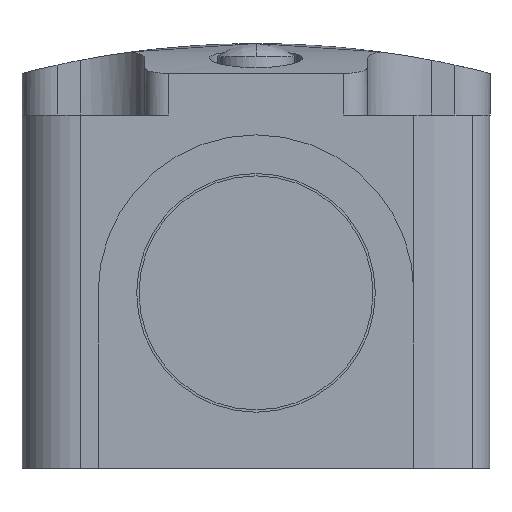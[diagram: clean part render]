
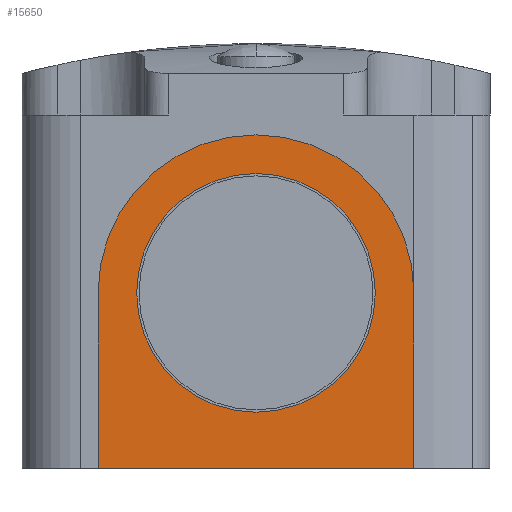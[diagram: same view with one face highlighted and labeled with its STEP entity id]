
A CAD part, front view. The second image highlights one B-rep face of the part: STEP entity #15650.
In plain terms, the highlighted planar face has unit normal (0, -1, 0).
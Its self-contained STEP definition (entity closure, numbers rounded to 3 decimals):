
#48 = CIRCLE ( 'NONE', #9316, 13.5 ) ;
#1264 = DIRECTION ( 'NONE',  ( 1., 0., 0. ) ) ;
#1295 = AXIS2_PLACEMENT_3D ( 'NONE', #8481, #18974, #10018 ) ;
#1306 = CARTESIAN_POINT ( 'NONE',  ( -13.5, -36.2, -21.3 ) ) ;
#1381 = EDGE_LOOP ( 'NONE', ( #9647, #13144 ) ) ;
#2154 = CARTESIAN_POINT ( 'NONE',  ( -13.5, -36.2, 15. ) ) ;
#3127 = VERTEX_POINT ( 'NONE', #8645 ) ;
#3336 = CARTESIAN_POINT ( 'NONE',  ( 0., -36.2, 0. ) ) ;
#3443 = VERTEX_POINT ( 'NONE', #14486 ) ;
#3886 = LINE ( 'NONE', #11008, #15392 ) ;
#4069 = ORIENTED_EDGE ( 'NONE', *, *, #8572, .F. ) ;
#4555 = DIRECTION ( 'NONE',  ( 0., -1., 0. ) ) ;
#4848 = DIRECTION ( 'NONE',  ( 0., 0., -1. ) ) ;
#5091 = DIRECTION ( 'NONE',  ( 0., 1., 0. ) ) ;
#6242 = VERTEX_POINT ( 'NONE', #7370 ) ;
#6459 = VERTEX_POINT ( 'NONE', #2154 ) ;
#6484 = CARTESIAN_POINT ( 'NONE',  ( 13.5, -36.2, 15. ) ) ;
#7370 = CARTESIAN_POINT ( 'NONE',  ( -13.5, -36.2, 0. ) ) ;
#7441 = VECTOR ( 'NONE', #1264, 1000. ) ;
#7560 = VERTEX_POINT ( 'NONE', #12855 ) ;
#7749 = EDGE_CURVE ( 'NONE', #6242, #6459, #12338, .T. ) ;
#7770 = DIRECTION ( 'NONE',  ( 0., 0., -1. ) ) ;
#7915 = LINE ( 'NONE', #19209, #7441 ) ;
#7923 = AXIS2_PLACEMENT_3D ( 'NONE', #14071, #5091, #15595 ) ;
#8481 = CARTESIAN_POINT ( 'NONE',  ( 0., -36.2, 0. ) ) ;
#8572 = EDGE_CURVE ( 'NONE', #6459, #16799, #7915, .T. ) ;
#8645 = CARTESIAN_POINT ( 'NONE',  ( 0., -36.2, -13.5 ) ) ;
#9094 = CIRCLE ( 'NONE', #1295, 10.2 ) ;
#9316 = AXIS2_PLACEMENT_3D ( 'NONE', #3336, #13826, #4848 ) ;
#9647 = ORIENTED_EDGE ( 'NONE', *, *, #10979, .F. ) ;
#10018 = DIRECTION ( 'NONE',  ( 0., 0., -1. ) ) ;
#10167 = EDGE_CURVE ( 'NONE', #7560, #16799, #3886, .T. ) ;
#10203 = EDGE_CURVE ( 'NONE', #3127, #6242, #14902, .T. ) ;
#10293 = DIRECTION ( 'NONE',  ( 0., 0., 1. ) ) ;
#10698 = ORIENTED_EDGE ( 'NONE', *, *, #12846, .F. ) ;
#10979 = EDGE_CURVE ( 'NONE', #3443, #12720, #15371, .T. ) ;
#11008 = CARTESIAN_POINT ( 'NONE',  ( 13.5, -36.2, -21.3 ) ) ;
#11127 = ORIENTED_EDGE ( 'NONE', *, *, #7749, .F. ) ;
#11248 = AXIS2_PLACEMENT_3D ( 'NONE', #15256, #16633, #7770 ) ;
#12338 = LINE ( 'NONE', #1306, #15397 ) ;
#12720 = VERTEX_POINT ( 'NONE', #13230 ) ;
#12846 = EDGE_CURVE ( 'NONE', #7560, #3127, #48, .T. ) ;
#12855 = CARTESIAN_POINT ( 'NONE',  ( 13.5, -36.2, 0. ) ) ;
#12985 = ORIENTED_EDGE ( 'NONE', *, *, #10167, .T. ) ;
#13029 = EDGE_LOOP ( 'NONE', ( #10698, #12985, #4069, #11127, #17656 ) ) ;
#13144 = ORIENTED_EDGE ( 'NONE', *, *, #14244, .F. ) ;
#13165 = AXIS2_PLACEMENT_3D ( 'NONE', #13552, #4555, #15052 ) ;
#13230 = CARTESIAN_POINT ( 'NONE',  ( 0., -36.2, 10.2 ) ) ;
#13552 = CARTESIAN_POINT ( 'NONE',  ( 0., -36.2, 0. ) ) ;
#13826 = DIRECTION ( 'NONE',  ( 0., 1., 0. ) ) ;
#14071 = CARTESIAN_POINT ( 'NONE',  ( 0., -36.2, 0. ) ) ;
#14244 = EDGE_CURVE ( 'NONE', #12720, #3443, #9094, .T. ) ;
#14463 = FACE_BOUND ( 'NONE', #1381, .T. ) ;
#14486 = CARTESIAN_POINT ( 'NONE',  ( 0., -36.2, -10.2 ) ) ;
#14902 = CIRCLE ( 'NONE', #7923, 13.5 ) ;
#15052 = DIRECTION ( 'NONE',  ( 0., 0., -1. ) ) ;
#15256 = CARTESIAN_POINT ( 'NONE',  ( -13.5, -36.2, -21.3 ) ) ;
#15371 = CIRCLE ( 'NONE', #13165, 10.2 ) ;
#15392 = VECTOR ( 'NONE', #18471, 1000. ) ;
#15397 = VECTOR ( 'NONE', #10293, 1000. ) ;
#15595 = DIRECTION ( 'NONE',  ( 0., 0., -1. ) ) ;
#15650 = ADVANCED_FACE ( 'NONE', ( #14463, #18446 ), #16766, .T. ) ;
#16633 = DIRECTION ( 'NONE',  ( 0., -1., 0. ) ) ;
#16766 = PLANE ( 'NONE',  #11248 ) ;
#16799 = VERTEX_POINT ( 'NONE', #6484 ) ;
#17656 = ORIENTED_EDGE ( 'NONE', *, *, #10203, .F. ) ;
#18446 = FACE_OUTER_BOUND ( 'NONE', #13029, .T. ) ;
#18471 = DIRECTION ( 'NONE',  ( 0., 0., 1. ) ) ;
#18974 = DIRECTION ( 'NONE',  ( 0., -1., 0. ) ) ;
#19209 = CARTESIAN_POINT ( 'NONE',  ( -13.5, -36.2, 15. ) ) ;
